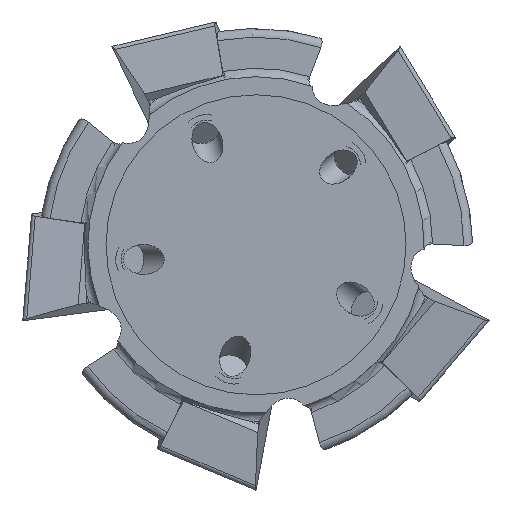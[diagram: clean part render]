
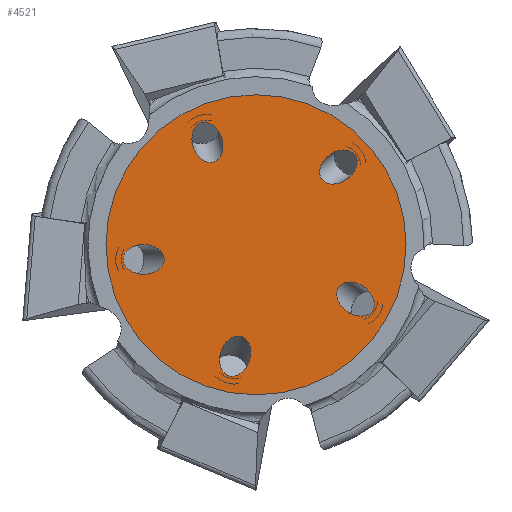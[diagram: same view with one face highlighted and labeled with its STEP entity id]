
A CAD part, top view. The second image highlights one B-rep face of the part: STEP entity #4521.
In plain terms, the highlighted planar face has unit normal (0, 0, 1) as drawn and (-1, 0, 0) by its records, which use the part's own axes.
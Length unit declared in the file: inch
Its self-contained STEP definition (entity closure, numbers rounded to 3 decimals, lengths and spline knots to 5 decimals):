
#12 = CARTESIAN_POINT ( 'NONE',  ( -3.995, 0.35312, -0.32083 ) ) ;
#52 = CARTESIAN_POINT ( 'NONE',  ( -3.995, -0.47426, 0.1585 ) ) ;
#143 = CARTESIAN_POINT ( 'NONE',  ( -3.995, -0.09472, -0.46789 ) ) ;
#190 = EDGE_LOOP ( 'NONE', ( #1385 ) ) ;
#333 = FACE_BOUND ( 'NONE', #5417, .T. ) ;
#512 = CARTESIAN_POINT ( 'NONE',  ( -3.995, 0.23287, 0.23655 ) ) ;
#592 = CARTESIAN_POINT ( 'NONE',  ( -3.995, 0.41572, -0.23467 ) ) ;
#634 = EDGE_CURVE ( 'NONE', #768, #768, #5836, .T. ) ;
#649 = EDGE_CURVE ( 'NONE', #4929, #4929, #7348, .T. ) ;
#709 = CARTESIAN_POINT ( 'NONE',  ( -3.995, -0.32744, 0.052 ) ) ;
#713 = CARTESIAN_POINT ( 'NONE',  ( -3.995, 0.23434, -0.23453 ) ) ;
#768 = VERTEX_POINT ( 'NONE', #1409 ) ;
#775 = CARTESIAN_POINT ( 'NONE',  ( -3.995, -0.15302, 0.29457 ) ) ;
#989 = FACE_BOUND ( 'NONE', #190, .T. ) ;
#1195 = CARTESIAN_POINT ( 'NONE',  ( -3.995, 0.17174, -0.32069 ) ) ;
#1219 = CARTESIAN_POINT ( 'NONE',  ( -3.995, -0.0971, 0.46711 ) ) ;
#1383 = EDGE_LOOP ( 'NONE', ( #3653 ) ) ;
#1385 = ORIENTED_EDGE ( 'NONE', *, *, #634, .F. ) ;
#1409 = CARTESIAN_POINT ( 'NONE',  ( -3.995, 0.41425, 0.23669 ) ) ;
#1444 = CARTESIAN_POINT ( 'NONE',  ( -3.995, -0.19601, -0.43498 ) ) ;
#1473 = VERTEX_POINT ( 'NONE', #7037 ) ;
#1551 = FACE_BOUND ( 'NONE', #6634, .T. ) ;
#1605 = CARTESIAN_POINT ( 'NONE',  ( -3.995, 0., 0. ) ) ;
#1670 = EDGE_CURVE ( 'NONE', #3119, #3119, #3758, .T. ) ;
#1758 = ORIENTED_EDGE ( 'NONE', *, *, #649, .F. ) ;
#2164 = DIRECTION ( 'NONE',  ( 1., 0., 0. ) ) ;
#2243 = DIRECTION ( 'NONE',  ( 0., 0., 1. ) ) ;
#2464 = CARTESIAN_POINT ( 'NONE',  ( -3.995, -0.19601, -0.43498 ) ) ;
#2684 = CARTESIAN_POINT ( 'NONE',  ( -3.995, 0.29547, 0.15039 ) ) ;
#2792 = VERTEX_POINT ( 'NONE', #4870 ) ;
#2835 = CARTESIAN_POINT ( 'NONE',  ( -3.995, 0.35165, 0.32285 ) ) ;
#2945 = CARTESIAN_POINT ( 'NONE',  ( -3.995, -0.32744, -0.0545 ) ) ;
#3024 = CARTESIAN_POINT ( 'NONE',  ( -3.995, 0.29694, -0.14837 ) ) ;
#3032 = CARTESIAN_POINT ( 'NONE',  ( -3.995, -0.19601, -0.43498 ) ) ;
#3049 = CARTESIAN_POINT ( 'NONE',  ( -3.995, 0.04956, 0.36039 ) ) ;
#3119 = VERTEX_POINT ( 'NONE', #7076 ) ;
#3145 = CARTESIAN_POINT ( 'NONE',  ( -3.995, -0.15064, -0.29534 ) ) ;
#3284 = ORIENTED_EDGE ( 'NONE', *, *, #6304, .F. ) ;
#3290 = FACE_BOUND ( 'NONE', #4864, .T. ) ;
#3323 = CARTESIAN_POINT ( 'NONE',  ( -3.995, 0.41425, 0.23669 ) ) ;
#3379 = DIRECTION ( 'NONE',  ( -1., 0., 0. ) ) ;
#3392 = CARTESIAN_POINT ( 'NONE',  ( -3.995, 0.47685, 0.15053 ) ) ;
#3474 = CARTESIAN_POINT ( 'NONE',  ( -3.995, -0.32744, 0.1585 ) ) ;
#3583 = CARTESIAN_POINT ( 'NONE',  ( -3.995, 0.35312, -0.32083 ) ) ;
#3601 = CARTESIAN_POINT ( 'NONE',  ( -3.995, -0.19839, 0.4342 ) ) ;
#3653 = ORIENTED_EDGE ( 'NONE', *, *, #4287, .T. ) ;
#3758 =( BOUNDED_CURVE ( )  B_SPLINE_CURVE ( 3, ( #3583, #5788, #1195, #713, #3024, #592, #12 ),
 .UNSPECIFIED., .T., .F. ) 
 B_SPLINE_CURVE_WITH_KNOTS ( ( 4, 3, 4 ),
 ( 0., 3.14159, 6.28319 ),
 .UNSPECIFIED. ) 
 CURVE ( )  GEOMETRIC_REPRESENTATION_ITEM ( )  RATIONAL_B_SPLINE_CURVE ( ( 1., 0.333, 0.333, 1., 0.333, 0.333, 1. ) ) 
 REPRESENTATION_ITEM ( '' )  );
#3972 = AXIS2_PLACEMENT_3D ( 'NONE', #7306, #2164, #4353 ) ;
#4073 = CARTESIAN_POINT ( 'NONE',  ( -3.995, -0.47426, 0.052 ) ) ;
#4287 = EDGE_CURVE ( 'NONE', #1473, #1473, #4461, .T. ) ;
#4353 = DIRECTION ( 'NONE',  ( 0., 0., -1. ) ) ;
#4461 = CIRCLE ( 'NONE', #4692, 0.53544 ) ;
#4521 = ADVANCED_FACE ( 'NONE', ( #1551, #6156, #333, #989, #3290, #5616 ), #5041, .F. ) ;
#4692 = AXIS2_PLACEMENT_3D ( 'NONE', #1605, #3379, #2243 ) ;
#4746 = CARTESIAN_POINT ( 'NONE',  ( -3.995, 0.00419, 0.50003 ) ) ;
#4788 = CARTESIAN_POINT ( 'NONE',  ( -3.995, -0.0971, 0.46711 ) ) ;
#4854 = VERTEX_POINT ( 'NONE', #1444 ) ;
#4864 = EDGE_LOOP ( 'NONE', ( #7196 ) ) ;
#4870 = CARTESIAN_POINT ( 'NONE',  ( -3.995, -0.0971, 0.46711 ) ) ;
#4929 = VERTEX_POINT ( 'NONE', #7190 ) ;
#4990 =( BOUNDED_CURVE ( )  B_SPLINE_CURVE ( 3, ( #4788, #4746, #3049, #5956, #775, #3601, #1219 ),
 .UNSPECIFIED., .T., .T. ) 
 B_SPLINE_CURVE_WITH_KNOTS ( ( 4, 3, 4 ),
 ( 0., 3.14159, 6.28319 ),
 .UNSPECIFIED. ) 
 CURVE ( )  GEOMETRIC_REPRESENTATION_ITEM ( )  RATIONAL_B_SPLINE_CURVE ( ( 1., 0.333, 0.333, 1., 0.333, 0.333, 1. ) ) 
 REPRESENTATION_ITEM ( '' )  );
#5041 = PLANE ( 'NONE',  #3972 ) ;
#5150 = CARTESIAN_POINT ( 'NONE',  ( -3.995, 0.41425, 0.23669 ) ) ;
#5351 = CARTESIAN_POINT ( 'NONE',  ( -3.995, -0.2973, -0.40207 ) ) ;
#5417 = EDGE_LOOP ( 'NONE', ( #1758 ) ) ;
#5469 = EDGE_LOOP ( 'NONE', ( #5548 ) ) ;
#5548 = ORIENTED_EDGE ( 'NONE', *, *, #6977, .F. ) ;
#5616 = FACE_OUTER_BOUND ( 'NONE', #1383, .T. ) ;
#5718 = CARTESIAN_POINT ( 'NONE',  ( -3.995, 0.35807, 0.06423 ) ) ;
#5788 = CARTESIAN_POINT ( 'NONE',  ( -3.995, 0.29052, -0.40699 ) ) ;
#5836 =( BOUNDED_CURVE ( )  B_SPLINE_CURVE ( 3, ( #3323, #3392, #5718, #2684, #512, #2835, #5150 ),
 .UNSPECIFIED., .T., .T. ) 
 B_SPLINE_CURVE_WITH_KNOTS ( ( 4, 3, 4 ),
 ( 0., 3.14159, 6.28319 ),
 .UNSPECIFIED. ) 
 CURVE ( )  GEOMETRIC_REPRESENTATION_ITEM ( )  RATIONAL_B_SPLINE_CURVE ( ( 1., 0.333, 0.333, 1., 0.333, 0.333, 1. ) ) 
 REPRESENTATION_ITEM ( '' )  );
#5956 = CARTESIAN_POINT ( 'NONE',  ( -3.995, -0.05173, 0.32748 ) ) ;
#5975 = CARTESIAN_POINT ( 'NONE',  ( -3.995, -0.04935, -0.32825 ) ) ;
#6156 = FACE_BOUND ( 'NONE', #5469, .T. ) ;
#6294 = CARTESIAN_POINT ( 'NONE',  ( -3.995, -0.47426, 0.052 ) ) ;
#6304 = EDGE_CURVE ( 'NONE', #4854, #4854, #7267, .T. ) ;
#6401 = CARTESIAN_POINT ( 'NONE',  ( -3.995, -0.47426, -0.0545 ) ) ;
#6414 = CARTESIAN_POINT ( 'NONE',  ( -3.995, -0.25193, -0.26243 ) ) ;
#6634 = EDGE_LOOP ( 'NONE', ( #3284 ) ) ;
#6977 = EDGE_CURVE ( 'NONE', #2792, #2792, #4990, .T. ) ;
#7037 = CARTESIAN_POINT ( 'NONE',  ( -3.995, 0., 0.53544 ) ) ;
#7076 = CARTESIAN_POINT ( 'NONE',  ( -3.995, 0.35312, -0.32083 ) ) ;
#7190 = CARTESIAN_POINT ( 'NONE',  ( -3.995, -0.47426, 0.052 ) ) ;
#7196 = ORIENTED_EDGE ( 'NONE', *, *, #1670, .F. ) ;
#7267 =( BOUNDED_CURVE ( )  B_SPLINE_CURVE ( 3, ( #3032, #5351, #6414, #3145, #5975, #143, #2464 ),
 .UNSPECIFIED., .T., .T. ) 
 B_SPLINE_CURVE_WITH_KNOTS ( ( 4, 3, 4 ),
 ( 0., 3.14159, 6.28319 ),
 .UNSPECIFIED. ) 
 CURVE ( )  GEOMETRIC_REPRESENTATION_ITEM ( )  RATIONAL_B_SPLINE_CURVE ( ( 1., 0.333, 0.333, 1., 0.333, 0.333, 1. ) ) 
 REPRESENTATION_ITEM ( '' )  );
#7306 = CARTESIAN_POINT ( 'NONE',  ( -3.995, 0., 0. ) ) ;
#7348 =( BOUNDED_CURVE ( )  B_SPLINE_CURVE ( 3, ( #6294, #52, #3474, #709, #2945, #6401, #4073 ),
 .UNSPECIFIED., .T., .T. ) 
 B_SPLINE_CURVE_WITH_KNOTS ( ( 4, 3, 4 ),
 ( 0., 3.14159, 6.28319 ),
 .UNSPECIFIED. ) 
 CURVE ( )  GEOMETRIC_REPRESENTATION_ITEM ( )  RATIONAL_B_SPLINE_CURVE ( ( 1., 0.333, 0.333, 1., 0.333, 0.333, 1. ) ) 
 REPRESENTATION_ITEM ( '' )  );
